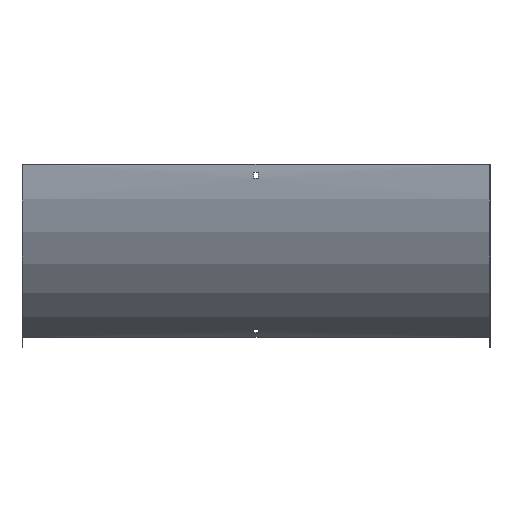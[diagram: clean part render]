
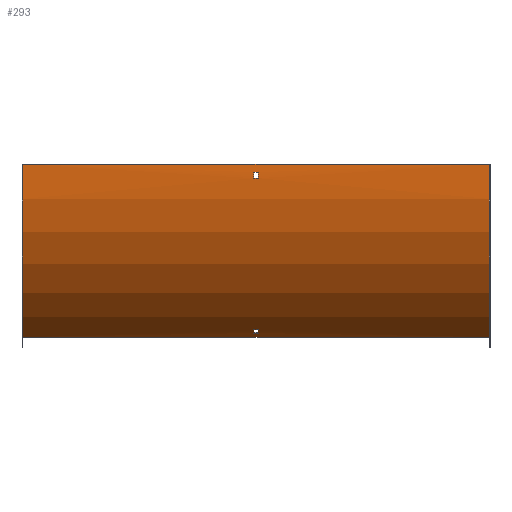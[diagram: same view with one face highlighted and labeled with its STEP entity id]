
A CAD part, front view. The second image highlights one B-rep face of the part: STEP entity #293.
In plain terms, the highlighted cylindrical face has radius 300 mm (diameter 600 mm), a partial arc.
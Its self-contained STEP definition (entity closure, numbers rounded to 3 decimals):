
#2 = ORIENTED_EDGE ( 'NONE', *, *, #204, .T. ) ;
#5 = AXIS2_PLACEMENT_3D ( 'NONE', #53, #567, #148 ) ;
#8 = EDGE_CURVE ( 'NONE', #225, #487, #553, .T. ) ;
#10 = CARTESIAN_POINT ( 'NONE',  ( -3.25, 298.5, 0. ) ) ;
#11 = CARTESIAN_POINT ( 'NONE',  ( 3.25, 138.228, -253.6 ) ) ;
#18 = DIRECTION ( 'NONE',  ( -1., 0., 0. ) ) ;
#30 = EDGE_CURVE ( 'NONE', #253, #88, #604, .T. ) ;
#33 = CIRCLE ( 'NONE', #306, 300. ) ;
#38 = AXIS2_PLACEMENT_3D ( 'NONE', #10, #104, #381 ) ;
#43 = DIRECTION ( 'NONE',  ( 1., 0., 0. ) ) ;
#53 = CARTESIAN_POINT ( 'NONE',  ( 350., 298.5, 0. ) ) ;
#56 = CARTESIAN_POINT ( 'NONE',  ( 351.5, 138.228, -253.6 ) ) ;
#60 = AXIS2_PLACEMENT_3D ( 'NONE', #578, #18, #491 ) ;
#64 = EDGE_CURVE ( 'NONE', #579, #116, #273, .T. ) ;
#72 = EDGE_CURVE ( 'NONE', #361, #463, #300, .T. ) ;
#88 = VERTEX_POINT ( 'NONE', #292 ) ;
#90 = ORIENTED_EDGE ( 'NONE', *, *, #64, .F. ) ;
#93 = VECTOR ( 'NONE', #337, 1000. ) ;
#94 = EDGE_CURVE ( 'NONE', #392, #577, #33, .T. ) ;
#99 = DIRECTION ( 'NONE',  ( -1., 0., 0. ) ) ;
#100 = CYLINDRICAL_SURFACE ( 'NONE', #160, 300. ) ;
#103 = CARTESIAN_POINT ( 'NONE',  ( 350., 148.5, -259.808 ) ) ;
#104 = DIRECTION ( 'NONE',  ( -1., 0., 0. ) ) ;
#111 = AXIS2_PLACEMENT_3D ( 'NONE', #308, #313, #167 ) ;
#116 = VERTEX_POINT ( 'NONE', #289 ) ;
#125 = ORIENTED_EDGE ( 'NONE', *, *, #589, .T. ) ;
#127 = CARTESIAN_POINT ( 'NONE',  ( 351.5, -1.26, -12. ) ) ;
#128 = CARTESIAN_POINT ( 'NONE',  ( 351.5, 130.681, -248.67 ) ) ;
#133 = LINE ( 'NONE', #128, #134 ) ;
#134 = VECTOR ( 'NONE', #43, 1000. ) ;
#138 = CARTESIAN_POINT ( 'NONE',  ( 351.5, -0.764, -21. ) ) ;
#147 = EDGE_LOOP ( 'NONE', ( #592, #258, #581, #125 ) ) ;
#148 = DIRECTION ( 'NONE',  ( 0., 0., 1. ) ) ;
#151 = CARTESIAN_POINT ( 'NONE',  ( 3.25, -1.26, -12. ) ) ;
#159 = ORIENTED_EDGE ( 'NONE', *, *, #314, .F. ) ;
#160 = AXIS2_PLACEMENT_3D ( 'NONE', #207, #244, #247 ) ;
#164 = EDGE_CURVE ( 'NONE', #116, #225, #199, .T. ) ;
#167 = DIRECTION ( 'NONE',  ( 0., 0., 1. ) ) ;
#176 = CARTESIAN_POINT ( 'NONE',  ( -3.25, 138.228, -253.6 ) ) ;
#178 = CARTESIAN_POINT ( 'NONE',  ( -3.25, 130.681, -248.67 ) ) ;
#199 = CIRCLE ( 'NONE', #111, 300. ) ;
#204 = EDGE_CURVE ( 'NONE', #577, #361, #478, .T. ) ;
#207 = CARTESIAN_POINT ( 'NONE',  ( 351.5, 298.5, 0. ) ) ;
#217 = CARTESIAN_POINT ( 'NONE',  ( 3.25, 130.681, -248.67 ) ) ;
#221 = CIRCLE ( 'NONE', #60, 300. ) ;
#225 = VERTEX_POINT ( 'NONE', #565 ) ;
#226 = VERTEX_POINT ( 'NONE', #472 ) ;
#238 = FACE_BOUND ( 'NONE', #537, .T. ) ;
#242 = LINE ( 'NONE', #476, #93 ) ;
#244 = DIRECTION ( 'NONE',  ( -1., 0., 0. ) ) ;
#245 = DIRECTION ( 'NONE',  ( 1., 0., 0. ) ) ;
#247 = DIRECTION ( 'NONE',  ( 0., 0., 1. ) ) ;
#252 = CARTESIAN_POINT ( 'NONE',  ( -350., 298.5, 0. ) ) ;
#253 = VERTEX_POINT ( 'NONE', #103 ) ;
#255 = VECTOR ( 'NONE', #99, 1000. ) ;
#258 = ORIENTED_EDGE ( 'NONE', *, *, #30, .F. ) ;
#260 = ORIENTED_EDGE ( 'NONE', *, *, #72, .T. ) ;
#265 = VECTOR ( 'NONE', #324, 1000. ) ;
#268 = EDGE_LOOP ( 'NONE', ( #2, #260, #466, #276 ) ) ;
#273 = LINE ( 'NONE', #127, #516 ) ;
#274 = CARTESIAN_POINT ( 'NONE',  ( 3.25, -0.764, -21. ) ) ;
#276 = ORIENTED_EDGE ( 'NONE', *, *, #94, .T. ) ;
#289 = CARTESIAN_POINT ( 'NONE',  ( -3.25, -1.26, -12. ) ) ;
#290 = EDGE_CURVE ( 'NONE', #253, #226, #532, .T. ) ;
#292 = CARTESIAN_POINT ( 'NONE',  ( -350., 148.5, -259.808 ) ) ;
#293 = ADVANCED_FACE ( 'NONE', ( #238, #571, #520 ), #100, .T. ) ;
#296 = DIRECTION ( 'NONE',  ( -1., 0., 0. ) ) ;
#299 = DIRECTION ( 'NONE',  ( 0., 0., 1. ) ) ;
#300 = CIRCLE ( 'NONE', #38, 300. ) ;
#306 = AXIS2_PLACEMENT_3D ( 'NONE', #474, #245, #385 ) ;
#308 = CARTESIAN_POINT ( 'NONE',  ( -3.25, 298.5, 0. ) ) ;
#310 = EDGE_CURVE ( 'NONE', #88, #325, #506, .T. ) ;
#313 = DIRECTION ( 'NONE',  ( 1., 0., 0. ) ) ;
#314 = EDGE_CURVE ( 'NONE', #487, #579, #221, .T. ) ;
#324 = DIRECTION ( 'NONE',  ( 1., 0., 0. ) ) ;
#325 = VERTEX_POINT ( 'NONE', #393 ) ;
#337 = DIRECTION ( 'NONE',  ( -1., 0., 0. ) ) ;
#361 = VERTEX_POINT ( 'NONE', #176 ) ;
#367 = DIRECTION ( 'NONE',  ( -1., 0., 0. ) ) ;
#381 = DIRECTION ( 'NONE',  ( 0., 1., 0. ) ) ;
#385 = DIRECTION ( 'NONE',  ( 0., 0., 1. ) ) ;
#392 = VERTEX_POINT ( 'NONE', #217 ) ;
#393 = CARTESIAN_POINT ( 'NONE',  ( -350., -1.5, 0. ) ) ;
#412 = EDGE_CURVE ( 'NONE', #463, #392, #133, .T. ) ;
#418 = DIRECTION ( 'NONE',  ( -1., 0., 0. ) ) ;
#463 = VERTEX_POINT ( 'NONE', #178 ) ;
#466 = ORIENTED_EDGE ( 'NONE', *, *, #412, .T. ) ;
#472 = CARTESIAN_POINT ( 'NONE',  ( 350., -1.5, 0. ) ) ;
#474 = CARTESIAN_POINT ( 'NONE',  ( 3.25, 298.5, 0. ) ) ;
#476 = CARTESIAN_POINT ( 'NONE',  ( 350., -1.5, 0. ) ) ;
#478 = LINE ( 'NONE', #56, #255 ) ;
#482 = VECTOR ( 'NONE', #367, 1000. ) ;
#485 = AXIS2_PLACEMENT_3D ( 'NONE', #252, #296, #299 ) ;
#487 = VERTEX_POINT ( 'NONE', #274 ) ;
#491 = DIRECTION ( 'NONE',  ( 0., 0., -1. ) ) ;
#506 = CIRCLE ( 'NONE', #485, 300. ) ;
#516 = VECTOR ( 'NONE', #418, 1000. ) ;
#520 = FACE_BOUND ( 'NONE', #268, .T. ) ;
#531 = ORIENTED_EDGE ( 'NONE', *, *, #8, .F. ) ;
#532 = CIRCLE ( 'NONE', #5, 300. ) ;
#537 = EDGE_LOOP ( 'NONE', ( #602, #90, #159, #531 ) ) ;
#553 = LINE ( 'NONE', #138, #265 ) ;
#565 = CARTESIAN_POINT ( 'NONE',  ( -3.25, -0.764, -21. ) ) ;
#567 = DIRECTION ( 'NONE',  ( -1., 0., 0. ) ) ;
#571 = FACE_OUTER_BOUND ( 'NONE', #147, .T. ) ;
#577 = VERTEX_POINT ( 'NONE', #11 ) ;
#578 = CARTESIAN_POINT ( 'NONE',  ( 3.25, 298.5, 0. ) ) ;
#579 = VERTEX_POINT ( 'NONE', #151 ) ;
#581 = ORIENTED_EDGE ( 'NONE', *, *, #290, .T. ) ;
#589 = EDGE_CURVE ( 'NONE', #226, #325, #242, .T. ) ;
#592 = ORIENTED_EDGE ( 'NONE', *, *, #310, .F. ) ;
#596 = CARTESIAN_POINT ( 'NONE',  ( 350., 148.5, -259.808 ) ) ;
#602 = ORIENTED_EDGE ( 'NONE', *, *, #164, .F. ) ;
#604 = LINE ( 'NONE', #596, #482 ) ;
